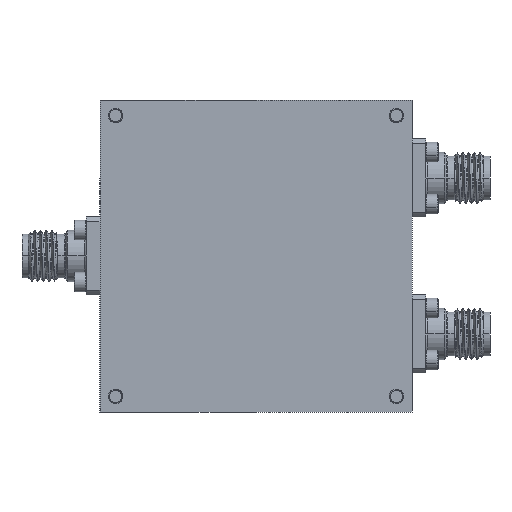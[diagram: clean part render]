
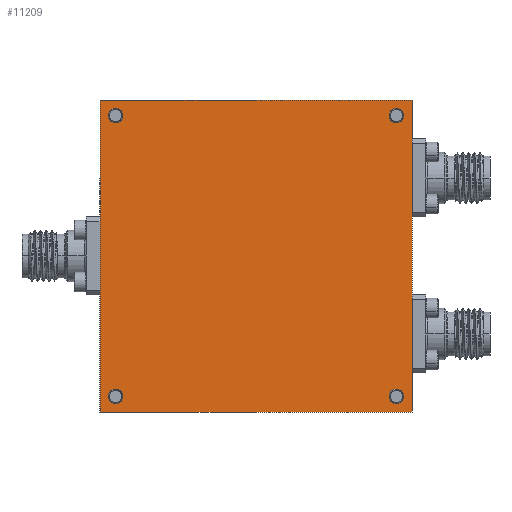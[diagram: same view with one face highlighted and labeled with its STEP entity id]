
A CAD part, front view. The second image highlights one B-rep face of the part: STEP entity #11209.
In plain terms, the highlighted planar face has unit normal (0, -1, 0).
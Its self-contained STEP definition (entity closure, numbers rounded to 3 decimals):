
#626 = VERTEX_POINT ( 'NONE', #6274 ) ;
#818 = FACE_OUTER_BOUND ( 'NONE', #6064, .T. ) ;
#896 = EDGE_CURVE ( 'NONE', #12684, #15242, #7520, .T. ) ;
#1048 = VERTEX_POINT ( 'NONE', #6150 ) ;
#1135 = CIRCLE ( 'NONE', #13365, 0.889 ) ;
#1441 = AXIS2_PLACEMENT_3D ( 'NONE', #13785, #10571, #12117 ) ;
#1608 = CARTESIAN_POINT ( 'NONE',  ( 17.145, 0., -17.145 ) ) ;
#2038 = CARTESIAN_POINT ( 'NONE',  ( 17.145, 0., 16.256 ) ) ;
#2274 = FACE_BOUND ( 'NONE', #2717, .T. ) ;
#2282 = EDGE_CURVE ( 'NONE', #15242, #12684, #1135, .T. ) ;
#2299 = DIRECTION ( 'NONE',  ( 0., 0., 1. ) ) ;
#2320 = CARTESIAN_POINT ( 'NONE',  ( -17.145, 0., 17.145 ) ) ;
#2323 = VERTEX_POINT ( 'NONE', #8526 ) ;
#2347 = DIRECTION ( 'NONE',  ( -1., 0., 0. ) ) ;
#2486 = DIRECTION ( 'NONE',  ( 0., 0., -1. ) ) ;
#2658 = ORIENTED_EDGE ( 'NONE', *, *, #2282, .T. ) ;
#2717 = EDGE_LOOP ( 'NONE', ( #7254, #10949 ) ) ;
#3001 = CARTESIAN_POINT ( 'NONE',  ( -17.145, 0., -18.034 ) ) ;
#3030 = VERTEX_POINT ( 'NONE', #11098 ) ;
#3093 = DIRECTION ( 'NONE',  ( 0., 0., 1. ) ) ;
#3480 = ORIENTED_EDGE ( 'NONE', *, *, #9102, .F. ) ;
#3486 = ORIENTED_EDGE ( 'NONE', *, *, #15699, .T. ) ;
#3515 = DIRECTION ( 'NONE',  ( 1., 0., 0. ) ) ;
#3911 = VERTEX_POINT ( 'NONE', #11254 ) ;
#3916 = DIRECTION ( 'NONE',  ( 0., 0., 1. ) ) ;
#4069 = CARTESIAN_POINT ( 'NONE',  ( 17.145, 0., 17.145 ) ) ;
#4161 = CIRCLE ( 'NONE', #19207, 0.889 ) ;
#4365 = ORIENTED_EDGE ( 'NONE', *, *, #9619, .T. ) ;
#4572 = CARTESIAN_POINT ( 'NONE',  ( -17.145, 0., -17.145 ) ) ;
#4782 = AXIS2_PLACEMENT_3D ( 'NONE', #18584, #12622, #2299 ) ;
#4973 = EDGE_CURVE ( 'NONE', #3030, #2323, #5187, .T. ) ;
#5094 = LINE ( 'NONE', #16432, #7544 ) ;
#5187 = CIRCLE ( 'NONE', #1441, 0.889 ) ;
#5216 = FACE_BOUND ( 'NONE', #13075, .T. ) ;
#5521 = LINE ( 'NONE', #8495, #16983 ) ;
#5686 = CARTESIAN_POINT ( 'NONE',  ( -17.145, 0., 18.034 ) ) ;
#5782 = VERTEX_POINT ( 'NONE', #10975 ) ;
#5934 = AXIS2_PLACEMENT_3D ( 'NONE', #14990, #14623, #16093 ) ;
#6064 = EDGE_LOOP ( 'NONE', ( #10261, #16821, #15114, #3480 ) ) ;
#6150 = CARTESIAN_POINT ( 'NONE',  ( -19.05, 0., 19.05 ) ) ;
#6274 = CARTESIAN_POINT ( 'NONE',  ( 17.145, 0., 18.034 ) ) ;
#7214 = CIRCLE ( 'NONE', #8801, 0.889 ) ;
#7254 = ORIENTED_EDGE ( 'NONE', *, *, #14086, .T. ) ;
#7520 = CIRCLE ( 'NONE', #5934, 0.889 ) ;
#7544 = VECTOR ( 'NONE', #3515, 1000. ) ;
#7617 = DIRECTION ( 'NONE',  ( 0., 1., 0. ) ) ;
#8111 = EDGE_CURVE ( 'NONE', #5782, #10037, #17435, .T. ) ;
#8303 = FACE_BOUND ( 'NONE', #13511, .T. ) ;
#8339 = CARTESIAN_POINT ( 'NONE',  ( -17.145, 0., 16.256 ) ) ;
#8434 = DIRECTION ( 'NONE',  ( 0., 0., 1. ) ) ;
#8495 = CARTESIAN_POINT ( 'NONE',  ( -19.05, 0., -19.05 ) ) ;
#8526 = CARTESIAN_POINT ( 'NONE',  ( 17.145, 0., -16.256 ) ) ;
#8548 = VERTEX_POINT ( 'NONE', #17790 ) ;
#8775 = PLANE ( 'NONE',  #12861 ) ;
#8801 = AXIS2_PLACEMENT_3D ( 'NONE', #1608, #7617, #13592 ) ;
#8820 = CARTESIAN_POINT ( 'NONE',  ( 19.05, 0., -19.05 ) ) ;
#9102 = EDGE_CURVE ( 'NONE', #10037, #8548, #12851, .T. ) ;
#9619 = EDGE_CURVE ( 'NONE', #2323, #3030, #7214, .T. ) ;
#10037 = VERTEX_POINT ( 'NONE', #15130 ) ;
#10040 = DIRECTION ( 'NONE',  ( 0., 1., 0. ) ) ;
#10261 = ORIENTED_EDGE ( 'NONE', *, *, #8111, .F. ) ;
#10571 = DIRECTION ( 'NONE',  ( 0., 1., 0. ) ) ;
#10719 = EDGE_CURVE ( 'NONE', #8548, #1048, #5521, .T. ) ;
#10874 = EDGE_CURVE ( 'NONE', #1048, #5782, #5094, .T. ) ;
#10949 = ORIENTED_EDGE ( 'NONE', *, *, #16358, .T. ) ;
#10975 = CARTESIAN_POINT ( 'NONE',  ( 19.05, 0., 19.05 ) ) ;
#11098 = CARTESIAN_POINT ( 'NONE',  ( 17.145, 0., -18.034 ) ) ;
#11209 = ADVANCED_FACE ( 'NONE', ( #5216, #15737, #2274, #8303, #818 ), #8775, .F. ) ;
#11254 = CARTESIAN_POINT ( 'NONE',  ( -17.145, 0., -16.256 ) ) ;
#11489 = CARTESIAN_POINT ( 'NONE',  ( -19.05, 0., -19.05 ) ) ;
#11523 = DIRECTION ( 'NONE',  ( 0., 0., 1. ) ) ;
#12117 = DIRECTION ( 'NONE',  ( 0., 0., 1. ) ) ;
#12622 = DIRECTION ( 'NONE',  ( 0., 1., 0. ) ) ;
#12650 = CARTESIAN_POINT ( 'NONE',  ( 17.145, 0., 17.145 ) ) ;
#12684 = VERTEX_POINT ( 'NONE', #5686 ) ;
#12851 = LINE ( 'NONE', #11489, #15974 ) ;
#12861 = AXIS2_PLACEMENT_3D ( 'NONE', #16019, #10040, #3916 ) ;
#13075 = EDGE_LOOP ( 'NONE', ( #3486, #18118 ) ) ;
#13365 = AXIS2_PLACEMENT_3D ( 'NONE', #2320, #14121, #18879 ) ;
#13511 = EDGE_LOOP ( 'NONE', ( #16314, #2658 ) ) ;
#13592 = DIRECTION ( 'NONE',  ( 0., 0., 1. ) ) ;
#13624 = DIRECTION ( 'NONE',  ( 0., 1., 0. ) ) ;
#13755 = AXIS2_PLACEMENT_3D ( 'NONE', #4069, #15799, #15884 ) ;
#13785 = CARTESIAN_POINT ( 'NONE',  ( 17.145, 0., -17.145 ) ) ;
#14086 = EDGE_CURVE ( 'NONE', #626, #19074, #19026, .T. ) ;
#14121 = DIRECTION ( 'NONE',  ( 0., 1., 0. ) ) ;
#14447 = EDGE_LOOP ( 'NONE', ( #4365, #17461 ) ) ;
#14623 = DIRECTION ( 'NONE',  ( 0., 1., 0. ) ) ;
#14990 = CARTESIAN_POINT ( 'NONE',  ( -17.145, 0., 17.145 ) ) ;
#15026 = VECTOR ( 'NONE', #2486, 1000. ) ;
#15114 = ORIENTED_EDGE ( 'NONE', *, *, #10719, .F. ) ;
#15130 = CARTESIAN_POINT ( 'NONE',  ( 19.05, 0., -19.05 ) ) ;
#15242 = VERTEX_POINT ( 'NONE', #8339 ) ;
#15460 = CIRCLE ( 'NONE', #18239, 0.889 ) ;
#15699 = EDGE_CURVE ( 'NONE', #3911, #18975, #16405, .T. ) ;
#15737 = FACE_BOUND ( 'NONE', #14447, .T. ) ;
#15799 = DIRECTION ( 'NONE',  ( 0., 1., 0. ) ) ;
#15884 = DIRECTION ( 'NONE',  ( 0., 0., 1. ) ) ;
#15974 = VECTOR ( 'NONE', #2347, 1000. ) ;
#16019 = CARTESIAN_POINT ( 'NONE',  ( 0., 0., 0. ) ) ;
#16093 = DIRECTION ( 'NONE',  ( 0., 0., 1. ) ) ;
#16314 = ORIENTED_EDGE ( 'NONE', *, *, #896, .T. ) ;
#16358 = EDGE_CURVE ( 'NONE', #19074, #626, #15460, .T. ) ;
#16405 = CIRCLE ( 'NONE', #4782, 0.889 ) ;
#16432 = CARTESIAN_POINT ( 'NONE',  ( -19.05, 0., 19.05 ) ) ;
#16821 = ORIENTED_EDGE ( 'NONE', *, *, #10874, .F. ) ;
#16983 = VECTOR ( 'NONE', #11523, 1000. ) ;
#17435 = LINE ( 'NONE', #8820, #15026 ) ;
#17461 = ORIENTED_EDGE ( 'NONE', *, *, #4973, .T. ) ;
#17601 = EDGE_CURVE ( 'NONE', #18975, #3911, #4161, .T. ) ;
#17790 = CARTESIAN_POINT ( 'NONE',  ( -19.05, 0., -19.05 ) ) ;
#18118 = ORIENTED_EDGE ( 'NONE', *, *, #17601, .T. ) ;
#18239 = AXIS2_PLACEMENT_3D ( 'NONE', #12650, #18978, #8434 ) ;
#18584 = CARTESIAN_POINT ( 'NONE',  ( -17.145, 0., -17.145 ) ) ;
#18879 = DIRECTION ( 'NONE',  ( 0., 0., 1. ) ) ;
#18975 = VERTEX_POINT ( 'NONE', #3001 ) ;
#18978 = DIRECTION ( 'NONE',  ( 0., 1., 0. ) ) ;
#19026 = CIRCLE ( 'NONE', #13755, 0.889 ) ;
#19074 = VERTEX_POINT ( 'NONE', #2038 ) ;
#19207 = AXIS2_PLACEMENT_3D ( 'NONE', #4572, #13624, #3093 ) ;
